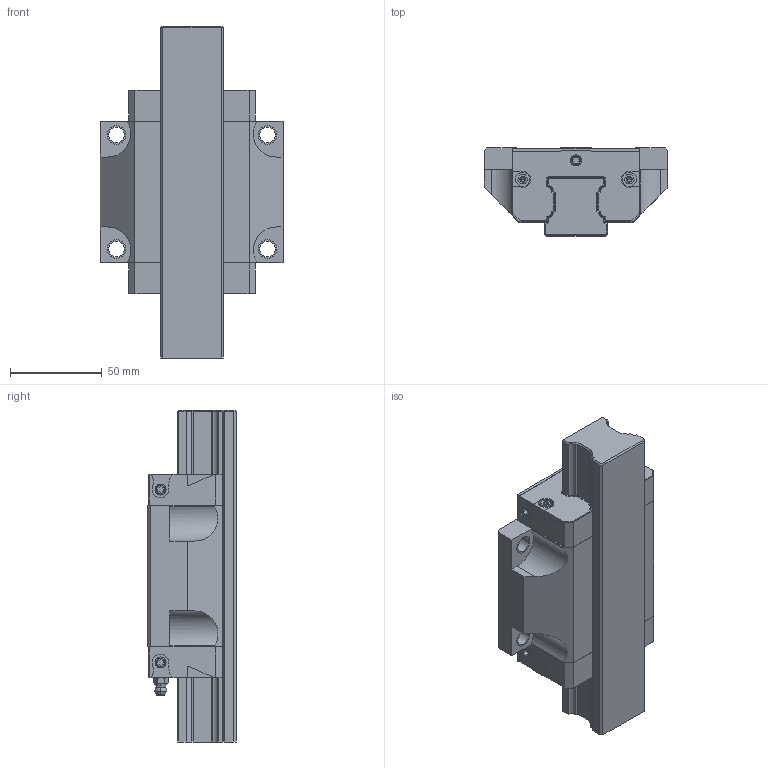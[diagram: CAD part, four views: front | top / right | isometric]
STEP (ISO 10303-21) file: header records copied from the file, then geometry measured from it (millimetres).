
FILE_DESCRIPTION((''),'2;1');
FILE_NAME('KWD_035_FNS_AL__ASM','2021-10-14T08:27:50',('ac91sw'),(''),'CREO PARAMETRIC BY PTC INC, 2020044','CREO PARAMETRIC BY PTC INC, 2020044','');
FILE_SCHEMA(('AUTOMOTIVE_DESIGN { 1 0 10303 214 1 1 1 1 }'));
Length unit declared in the file: millimetre
Products named in the file (7): KWD_035_FNS_AL__SKEL; R200130101; R200130102_Z; R343706101_Z; KWD_035_FNS_AL__PSF; R341700802_Z; KWD_035_FNS_AL__ASM
Assembly tree (11 placements, depth 2):
  KWD_035_FNS_AL__ASM
    KWD_035_FNS_AL__SKEL
    R200130101
    R200130102_Z  x2
    R343706101_Z  x5
    KWD_035_FNS_AL__PSF
    R341700802_Z
Bounding box: 100 x 48 x 180.5 mm (x, y, z)
Volume: 401721.7 mm3; surface area: 88498.4 mm2
Topology: 10 solids, 28 shells, 550 faces, 1422 edges, 910 vertices
Faces by surface type: plane 314, cylinder 162, cone 68, torus 4, sphere 2
Entity records: 17856 total; most frequent: CARTESIAN_POINT 2259, DIRECTION 1880, ORIENTED_EDGE 1764, EDGE_CURVE 906, PROPERTY_DEFINITION 824, REPRESENTATION 815, PROPERTY_DEFINITION_REPRESENTATION 815, DESCRIPTIVE_REPRESENTATION_ITEM 758
